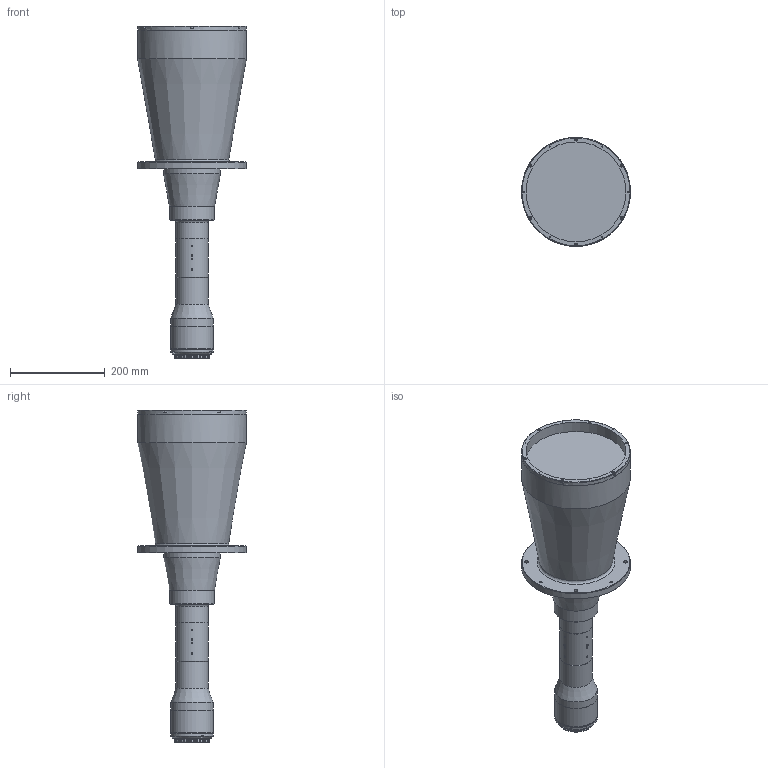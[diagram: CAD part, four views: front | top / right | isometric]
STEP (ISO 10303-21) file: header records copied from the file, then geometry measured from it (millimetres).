
FILE_DESCRIPTION (( 'STEP AP203' ), '1' );
FILE_NAME ('3d_mtl-19557v74-029_a002.STEP', '2017-06-22T00:54:07', ( '' ), ( '' ), 'SwSTEP 2.0', 'SolidWorks 2014', '' );
FILE_SCHEMA (( 'CONFIG_CONTROL_DESIGN' ));
Length unit declared in the file: millimetre
Products named in the file (1): 3d_mtl-19557v74-029_a002
Bounding box: 230 x 230 x 701.27 mm (x, y, z)
Volume: 10901513 mm3; surface area: 447630.1 mm2
Topology: 1 solids, 19 shells, 924 faces, 2118 edges, 1281 vertices
Faces by surface type: plane 542, cone 219, cylinder 105, torus 46, sphere 12
Full cylindrical faces by diameter (mm): 1.5 x6, 1.6 x4, 3 x6, 3.2 x4, 3.5 x8, 3.6 x6, 4 x4, 5 x4, 5.5 x9, 7 x4, 8 x8, 65 x1, 65.675 x1, 66 x1, 68 x4, 69 x1, 70.458 x1, 71 x1, 71.6 x1, 74 x3, 75 x1, 79 x1, 79.5 x1, 84 x1, 84.5 x1, 89 x1, 90 x3, 93 x1, 120 x1, 211 x1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
Entity records: 24959 total; most frequent: CARTESIAN_POINT 5401, DIRECTION 4258, ORIENTED_EDGE 3594, EDGE_CURVE 1797, AXIS2_PLACEMENT_3D 1751, EDGE_LOOP 1251, VERTEX_POINT 1188, FACE_OUTER_BOUND 1073
